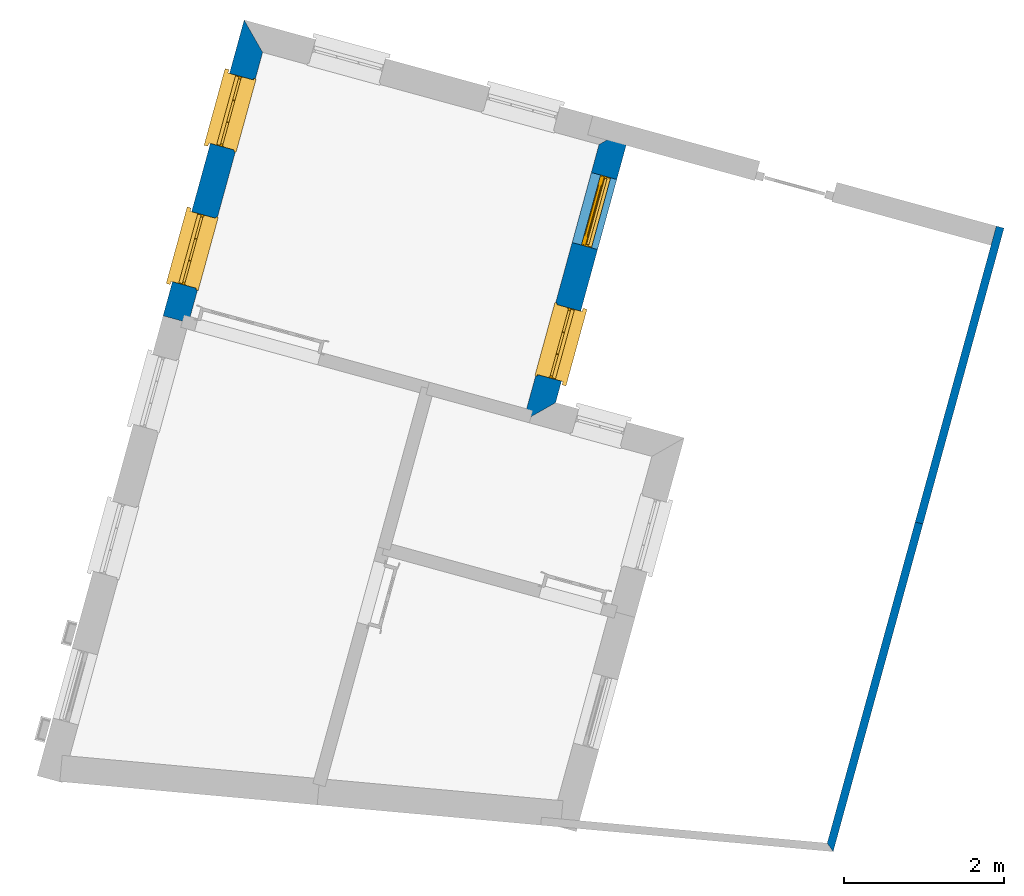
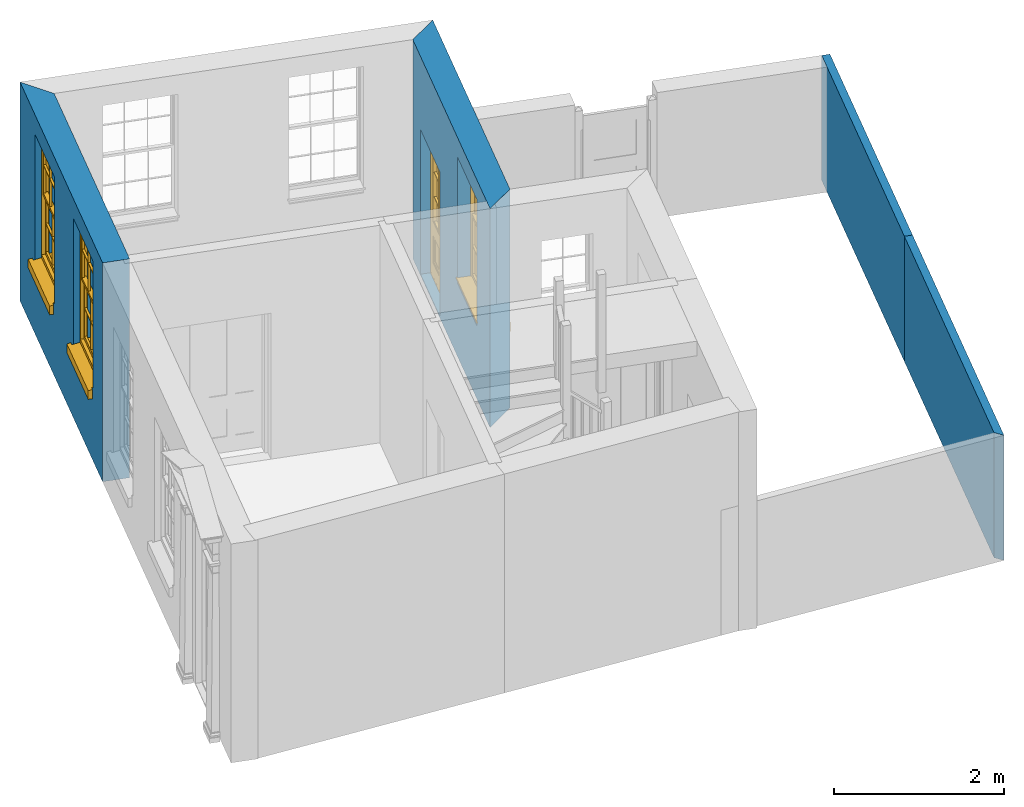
# One storey, part 6 of 8: 4 walls, 3 windows, 1 door, 4 openings.
"""IFC4 building model written with IfcOpenShell, lengths in metres."""

from ifc_helpers import new_model, si_unit, frame, origin, origin_with_axes, place, context, subcontext, project, spatial, polyline, outline, extrude, faceted_brep, source, transform, mapped, material, layer, layer_set, layer_usage, type_object, type_shapes, element, fill, save


model = new_model("IFC4")

# Units and contexts
model_context = context("Model", 3, world=origin_with_axes())
body_context = subcontext(model_context, "Body", "Model", "MODEL_VIEW")
ifc_project = project(units=[si_unit("PLANEANGLEUNIT", "RADIAN"), si_unit("MASSUNIT", "GRAM", prefix="KILO"), si_unit("FORCEUNIT", "NEWTON", prefix="KILO"), si_unit("LENGTHUNIT", "METRE"), si_unit("AREAUNIT", "SQUARE_METRE"), si_unit("VOLUMEUNIT", "CUBIC_METRE")], contexts=[model_context, model_context])

# Sites, building, storey
site_1_placement = place(None, origin_with_axes())
site_1 = spatial("IfcSite", under=ifc_project, at=site_1_placement, Name="Tamar")
site_2_placement = place(site_1_placement, origin_with_axes())
site_2 = spatial("IfcSite", under=site_1, at=site_2_placement, Name="Site plot-28", CompositionType="ELEMENT")
building_placement = place(None, origin_with_axes())
building = spatial("IfcBuilding", under=site_2, at=building_placement, Name="Building plot-28", CompositionType="ELEMENT")
storey_placement = place(None, frame((0.0, 0.0, 24.0), z_axis=(0.0, 0.0, 1.0), x_axis=(1.0, 0.0, 0.0)))
storey = spatial("IfcBuildingStorey", under=building, at=storey_placement, Name="plot-28 0", CompositionType="ELEMENT", Elevation=24.0)

# Wall, openings, door, window
ifc_material_1 = material(Name="Masonry")
ifc_layer_1 = layer(ifc_material_1, 0.33, ventilated=False)
ifc_layer_set_1 = layer_set([ifc_layer_1], Name="exterior_0.08_0.25")
ifc_layer_usage_1 = layer_usage(ifc_layer_set_1, "AXIS2", "POSITIVE", -0.25)
wall_type_1 = type_object("IfcWallType", Name="exterior_0.08_0.25", PredefinedType="SOLIDWALL", material=ifc_layer_set_1)
wall_1_placement = place(storey_placement, frame((264.968572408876, 264.000727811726, 0.0), z_axis=(0.0, 0.0, 1.0), x_axis=(0.264255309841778, 0.964452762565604, 0.0)))
wall_1 = element("IfcWall", 1, at=wall_1_placement, inside=storey, type_object=wall_type_1, material=ifc_layer_usage_1, Name="exterior", context=body_context, shape_type="SweptSolid", body=[
    extrude(outline(polyline([(-0.079999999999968, 0.0799999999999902), (0.250000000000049, -0.249999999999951), (3.84326696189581, -0.24999999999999), (3.51326696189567, 0.0799999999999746), (-0.079999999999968, 0.0799999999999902)])), origin_with_axes(), (0.0, 0.0, 1.0), 3.15),
])
opening_1_placement = place(wall_1_placement, frame((0.529950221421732, 0.0, 1.05)))
opening_1 = element("IfcOpeningElement", 2, at=opening_1_placement, cuts=wall_1, Name="My Opening", ObjectType="Opening", context=body_context, shape_type="SweptSolid", body=[
    extrude(outline(polyline([(0.0, -0.270000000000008), (0.910000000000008, -0.269999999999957), (0.910000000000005, 1.10000000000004), (-3.44169137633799e-15, 1.09999999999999), (0.0, -0.270000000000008)])), origin_with_axes(), (0.0, 0.0, 1.0), 1.82),
])
opening_2_placement = place(wall_1_placement, frame((2.23995022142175, 0.0, 0.0199999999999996)))
opening_2 = element("IfcOpeningElement", 3, at=opening_2_placement, cuts=wall_1, Name="My Opening", ObjectType="Opening", context=body_context, shape_type="SweptSolid", body=[
    extrude(outline(polyline([(0.0, -0.270000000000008), (0.910000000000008, -0.269999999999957), (0.910000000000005, 1.10000000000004), (-3.10862446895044e-15, 1.09999999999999), (0.0, -0.270000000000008)])), origin_with_axes(), (0.0, 0.0, 1.0), 2.08),
])
door_type = type_object("IfcDoorType", Name="door_panelled", OperationType="SINGLE_SWING_LEFT", PredefinedType="NOTDEFINED")
shared_shape_1 = source(origin(), body_context, "Body", "Brep", [
    faceted_brep([(0.545, 0.195, 0.265), (0.745, 0.195, 0.265), (0.745, 0.2, 0.265), (0.545, 0.2, 0.265), (0.745, 0.2, 0.58), (0.545, 0.2, 0.58), (0.545, 0.195, 0.58), (0.515, 0.19, 0.235), (0.775, 0.19, 0.235), (0.745, 0.195, 0.58), (0.515, 0.19, 0.61), (0.515, 0.185, 0.235), (0.775, 0.185, 0.235), (0.775, 0.19, 0.61), (0.515, 0.185, 0.61), (0.785, 0.185, 0.225), (0.505, 0.185, 0.225), (0.775, 0.185, 0.61), (0.505, 0.185, 0.62), (0.785, 0.185, 0.62), (0.505, 0.18, 0.225), (0.785, 0.18, 0.225), (0.505, 0.18, 0.62), (0.785, 0.18, 0.62), (0.883, 0.18, 0.075), (0.898, 0.18, 0.075), (0.405, 0.18, 0.62), (0.405, 0.18, 0.225), (0.027, 0.18, 0.075), (0.785, 0.18, 0.82), (0.125, 0.18, 0.82), (0.405, 0.185, 0.62), (0.405, 0.185, 0.225), (0.898, 0.18, 2.068), (0.027, 0.17, 0.075), (0.883, 0.17, 0.075), (0.125, 0.18, 0.225), (0.012, 0.18, 0.075), (0.785, 0.19, 0.82), (0.125, 0.19, 0.82), (0.125, 0.18, 0.62), (0.125, 0.185, 0.62), (0.395, 0.185, 0.61), (0.395, 0.185, 0.235), (0.125, 0.185, 0.225), (0.785, 0.18, 1.895), (0.027, 0.14, 0.045), (0.883, 0.14, 0.045), (0.558333, 0.19, 0.83), (0.351667, 0.19, 0.83), (0.125, 0.18, 1.895), (0.125, 0.19, 1.895), (0.785, 0.19, 1.895), (0.012, 0.18, 2.068), (0.135, 0.185, 0.61), (0.395, 0.19, 0.61), (0.395, 0.19, 0.235), (0.135, 0.185, 0.235), (0.027, 0.14, 0.027), (0.883, 0.14, 0.027), (0.568333, 0.19, 0.83), (0.558333, 0.22, 0.83), (0.351667, 0.22, 0.83), (0.341667, 0.19, 0.83), (0.135, 0.19, 1.185), (0.135, 0.19, 1.53), (0.775, 0.19, 1.53), (0.775, 0.19, 1.185), (0.135, 0.19, 0.61), (0.365, 0.195, 0.58), (0.365, 0.195, 0.265), (0.135, 0.19, 0.235), (0.568333, 0.19, 1.175), (0.558333, 0.19, 1.175), (0.775, 0.19, 0.83), (0.558333, 0.22, 1.175), (0.785, 0.22, 0.82), (0.125, 0.22, 0.82), (0.351667, 0.22, 1.175), (0.351667, 0.19, 1.175), (0.341667, 0.19, 1.175), (0.135, 0.19, 0.83), (0.135, 0.19, 1.175), (0.135, 0.22, 1.185), (0.135, 0.22, 1.53), (0.135, 0.19, 1.54), (0.351667, 0.19, 1.885), (0.558333, 0.19, 1.885), (0.775, 0.22, 1.53), (0.775, 0.22, 1.185), (0.775, 0.19, 1.175), (0.775, 0.19, 1.54), (0.165, 0.195, 0.58), (0.365, 0.2, 0.58), (0.365, 0.2, 0.265), (0.165, 0.195, 0.265), (0.568333, 0.22, 0.83), (0.568333, 0.22, 1.175), (0.568333, 0.19, 1.185), (0.558333, 0.19, 1.185), (0.775, 0.22, 0.83), (0.785, 0.23, 0.82), (0.125, 0.23, 0.82), (0.341667, 0.22, 0.83), (0.341667, 0.22, 1.175), (0.351667, 0.19, 1.185), (0.341667, 0.19, 1.185), (0.135, 0.22, 0.83), (0.341667, 0.22, 1.185), (0.125, 0.22, 1.895), (0.341667, 0.22, 1.53), (0.341667, 0.19, 1.53), (0.135, 0.19, 1.885), (0.341667, 0.19, 1.54), (0.341667, 0.19, 1.885), (0.558333, 0.22, 1.885), (0.351667, 0.22, 1.885), (0.568333, 0.19, 1.885), (0.785, 0.22, 1.895), (0.568333, 0.22, 1.185), (0.568333, 0.19, 1.53), (0.568333, 0.22, 1.53), (0.568333, 0.19, 1.54), (0.775, 0.19, 1.885), (0.165, 0.2, 0.58), (0.165, 0.2, 0.265), (0.775, 0.22, 1.175), (0.558333, 0.19, 1.53), (0.351667, 0.22, 1.185), (0.558333, 0.22, 1.185), (0.505, 0.23, 0.62), (0.405, 0.23, 0.62), (0.125, 0.23, 1.895), (0.785, 0.23, 1.895), (0.351667, 0.19, 1.53), (0.135, 0.22, 1.175), (0.135, 0.22, 1.54), (0.341667, 0.22, 1.54), (0.135, 0.22, 1.885), (0.351667, 0.19, 1.54), (0.558333, 0.22, 1.54), (0.558333, 0.19, 1.54), (0.351667, 0.22, 1.54), (0.775, 0.22, 1.54), (0.568333, 0.22, 1.54), (0.775, 0.22, 1.885), (0.558333, 0.22, 1.53), (0.405, 0.23, 0.225), (0.505, 0.23, 0.225), (0.125, 0.23, 0.62), (0.785, 0.23, 0.62), (0.012, 0.23, 2.068), (0.898, 0.23, 2.068), (0.351667, 0.22, 1.53), (0.341667, 0.22, 1.885), (0.568333, 0.22, 1.885), (0.405, 0.225, 0.225), (0.405, 0.225, 0.62), (0.505, 0.225, 0.62), (0.505, 0.225, 0.225), (0.898, 0.23, 0.027), (0.012, 0.23, 0.027), (0.125, 0.225, 0.62), (0.785, 0.225, 0.62), (0.395, 0.225, 0.235), (0.395, 0.225, 0.61), (0.125, 0.23, 0.225), (0.125, 0.225, 0.225), (0.515, 0.225, 0.61), (0.515, 0.225, 0.235), (0.785, 0.23, 0.225), (0.785, 0.225, 0.225), (0.135, 0.225, 0.61), (0.775, 0.225, 0.61), (0.135, 0.225, 0.235), (0.395, 0.22, 0.235), (0.395, 0.22, 0.61), (0.515, 0.22, 0.61), (0.515, 0.22, 0.235), (0.775, 0.225, 0.235), (0.135, 0.22, 0.61), (0.775, 0.22, 0.61), (0.135, 0.22, 0.235), (0.365, 0.215, 0.265), (0.365, 0.215, 0.58), (0.545, 0.215, 0.58), (0.545, 0.215, 0.265), (0.775, 0.22, 0.235), (0.165, 0.215, 0.58), (0.745, 0.215, 0.58), (0.165, 0.215, 0.265), (0.365, 0.21, 0.58), (0.365, 0.21, 0.265), (0.545, 0.21, 0.58), (0.545, 0.21, 0.265), (0.745, 0.215, 0.265), (0.165, 0.21, 0.58), (0.745, 0.21, 0.58), (0.165, 0.21, 0.265), (0.745, 0.21, 0.265), (0.885, 0.178, 0.025), (0.025, 0.178, 0.025), (0.025, 0.15, 0.025), (0.885, 0.15, 0.025), (0.9, 0.23, 0.025), (0.01, 0.23, 0.025), (0.9, 0.178, 0.025), (0.91, 0.23, 0.0), (0.0, 0.23, 0.0), (0.01, 0.178, 0.025), (0.9, 0.178, 2.07), (0.9, 0.23, 2.07), (0.885, 0.178, 2.055), (0.91, 0.23, 2.08), (0.01, 0.23, 2.07), (0.0, 0.23, 2.08), (0.01, 0.178, 2.07), (0.025, 0.178, 2.055), (0.0, 0.1, 2.08), (0.91, 0.1, 2.08), (0.01, 0.1, 2.07), (0.9, 0.1, 2.07), (0.01, 0.15, 2.07), (0.9, 0.15, 2.07), (0.0, 0.1, 0.0), (0.91, 0.1, 0.0), (0.01, 0.1, 0.025), (0.9, 0.1, 0.025), (0.01, 0.15, 0.025), (0.025, 0.15, 2.055), (0.9, 0.15, 0.025), (0.885, 0.15, 2.055), (0.898, 0.18, 0.027), (0.012, 0.18, 0.027), (0.883, 0.18, 0.027), (0.027, 0.18, 0.027)], [[[0, 1, 2, 3]], [[2, 4, 5, 3]], [[0, 3, 5, 6]], [[1, 0, 7, 8]], [[9, 4, 2, 1]], [[9, 6, 5, 4]], [[0, 6, 10, 7]], [[8, 7, 11, 12]], [[8, 13, 9, 1]], [[13, 10, 6, 9]], [[7, 10, 14, 11]], [[15, 12, 11, 16]], [[12, 17, 13, 8]], [[17, 14, 10, 13]], [[18, 16, 11, 14]], [[15, 19, 17, 12]], [[15, 16, 20, 21]], [[14, 17, 19, 18]], [[16, 18, 22, 20]], [[21, 23, 19, 15]], [[24, 25, 21, 20]], [[23, 22, 18, 19]], [[20, 22, 26, 27]], [[23, 21, 25]], [[28, 24, 20, 27]], [[22, 23, 29]], [[29, 30, 26, 22]], [[27, 26, 31, 32]], [[23, 25, 33, 29]], [[34, 35, 24, 28]], [[28, 27, 36, 37]], [[38, 39, 30, 29]], [[26, 30, 40]], [[26, 40, 41, 31]], [[42, 43, 32, 31]], [[32, 44, 36, 27]], [[33, 45, 29]], [[46, 47, 35, 34]], [[36, 40, 37]], [[39, 38, 48, 49]], [[50, 30, 39, 51]], [[29, 45, 52, 38]], [[53, 37, 40, 30]], [[44, 41, 40, 36]], [[31, 41, 54, 42]], [[43, 42, 55, 56]], [[57, 44, 32, 43]], [[50, 45, 33, 53]], [[47, 46, 58, 59]], [[60, 48, 38]], [[49, 48, 61, 62]], [[49, 63, 39]], [[50, 53, 30]], [[51, 39, 64, 65]], [[45, 50, 51, 52]], [[66, 67, 38, 52]], [[57, 54, 41, 44]], [[42, 54, 68, 55]], [[56, 55, 69, 70]], [[56, 71, 57, 43]], [[60, 72, 73, 48]], [[60, 38, 74]], [[48, 73, 75, 61]], [[76, 77, 62, 61]], [[62, 78, 79, 49]], [[49, 79, 80, 63]], [[63, 81, 39]], [[82, 64, 39]], [[65, 64, 83, 84]], [[85, 51, 65]], [[52, 51, 86, 87]], [[88, 89, 67, 66]], [[90, 38, 67]], [[91, 66, 52]], [[71, 68, 54, 57]], [[55, 68, 92, 69]], [[69, 93, 94, 70]], [[70, 95, 71, 56]], [[96, 97, 72, 60]], [[73, 72, 98, 99]], [[74, 38, 90]], [[100, 96, 60, 74]], [[75, 73, 79, 78]], [[61, 75, 97, 96]], [[101, 102, 77, 76]], [[77, 103, 62]], [[96, 76, 61]], [[103, 104, 78, 62]], [[80, 79, 105, 106]], [[63, 80, 104, 103]], [[81, 63, 103, 107]], [[81, 82, 39]], [[106, 64, 82, 80]], [[106, 108, 83, 64]], [[84, 83, 77, 109]], [[110, 111, 65, 84]], [[112, 51, 85]], [[113, 85, 65, 111]], [[114, 86, 51]], [[115, 87, 86, 116]], [[117, 52, 87]], [[118, 76, 89, 88]], [[119, 98, 67, 89]], [[120, 121, 88, 66]], [[67, 98, 72, 90]], [[91, 122, 120, 66]], [[91, 52, 123]], [[95, 92, 68, 71]], [[69, 92, 124, 93]], [[94, 93, 124, 125]], [[94, 125, 95, 70]], [[72, 97, 126, 90]], [[127, 99, 98, 120]], [[99, 105, 79, 73]], [[74, 90, 126, 100]], [[96, 100, 76]], [[128, 129, 75, 78]], [[97, 75, 129, 119]], [[130, 131, 102, 101]], [[109, 77, 102, 132]], [[133, 101, 76, 118]], [[77, 107, 103]], [[78, 104, 108, 128]], [[111, 106, 105, 134]], [[104, 80, 82, 135]], [[107, 135, 82, 81]], [[110, 108, 106, 111]], [[104, 135, 83, 108]], [[83, 135, 77]], [[136, 84, 109]], [[110, 84, 136, 137]], [[114, 51, 112]], [[85, 136, 138, 112]], [[113, 137, 136, 85]], [[111, 134, 139, 113]], [[86, 114, 113, 139]], [[140, 141, 87, 115]], [[139, 142, 116, 86]], [[109, 118, 115, 116]], [[117, 123, 52]], [[117, 87, 141, 122]], [[126, 89, 76]], [[143, 118, 88]], [[120, 98, 119, 121]], [[119, 89, 126, 97]], [[144, 143, 88, 121]], [[144, 122, 91, 143]], [[127, 120, 122, 141]], [[143, 91, 123, 145]], [[124, 92, 95, 125]], [[146, 129, 99, 127]], [[99, 129, 128, 105]], [[100, 126, 76]], [[121, 119, 129, 146]], [[147, 131, 130, 148]], [[131, 149, 102]], [[130, 101, 150]], [[102, 151, 132]], [[118, 109, 132, 133]], [[101, 133, 152]], [[107, 77, 135]], [[153, 128, 108, 110]], [[134, 105, 128, 153]], [[109, 138, 136]], [[153, 110, 137, 142]], [[154, 114, 112, 138]], [[137, 113, 114, 154]], [[141, 139, 134, 127]], [[141, 140, 142, 139]], [[144, 140, 115, 155]], [[142, 137, 154, 116]], [[155, 115, 118]], [[116, 154, 109]], [[117, 155, 145, 123]], [[122, 144, 155, 117]], [[143, 145, 118]], [[121, 146, 140, 144]], [[146, 127, 134, 153]], [[156, 157, 131, 147]], [[148, 130, 158, 159]], [[148, 160, 161, 147]], [[157, 162, 149, 131]], [[161, 151, 102, 149]], [[101, 152, 160, 150]], [[163, 158, 130, 150]], [[151, 152, 133, 132]], [[154, 138, 109]], [[142, 140, 146, 153]], [[145, 155, 118]], [[157, 156, 164, 165]], [[147, 166, 167, 156]], [[168, 169, 159, 158]], [[170, 148, 159, 171]], [[148, 170, 160]], [[166, 147, 161]], [[172, 162, 157, 165]], [[166, 149, 162, 167]], [[166, 161, 149]], [[150, 160, 170]], [[163, 173, 168, 158]], [[171, 163, 150, 170]], [[174, 164, 156, 167]], [[175, 176, 165, 164]], [[169, 168, 177, 178]], [[171, 159, 169, 179]], [[167, 162, 172, 174]], [[176, 180, 172, 165]], [[179, 173, 163, 171]], [[181, 177, 168, 173]], [[164, 174, 182, 175]], [[183, 184, 176, 175]], [[178, 177, 185, 186]], [[179, 169, 178, 187]], [[174, 172, 180, 182]], [[184, 188, 180, 176]], [[187, 181, 173, 179]], [[189, 185, 177, 181]], [[175, 182, 190, 183]], [[191, 184, 183, 192]], [[185, 193, 194, 186]], [[187, 178, 186, 195]], [[182, 180, 188, 190]], [[191, 196, 188, 184]], [[195, 189, 181, 187]], [[197, 193, 185, 189]], [[183, 190, 198, 192]], [[198, 196, 191, 192]], [[194, 193, 197, 199]], [[195, 186, 194, 199]], [[188, 196, 198, 190]], [[197, 189, 195, 199]], [[200, 201, 202, 203]], [[201, 200, 204, 205]], [[206, 204, 200]], [[204, 207, 208, 205]], [[209, 201, 205]], [[210, 211, 204, 206]], [[206, 200, 212, 210]], [[211, 213, 207, 204]], [[214, 205, 208, 215]], [[216, 217, 201, 209]], [[205, 214, 216, 209]], [[216, 214, 211, 210]], [[210, 212, 217, 216]], [[214, 215, 213, 211]], [[218, 219, 213, 215]], [[219, 218, 220, 221]], [[221, 220, 222, 223]], [[215, 208, 224, 218]], [[225, 224, 208, 207]], [[224, 226, 220, 218]], [[224, 225, 227, 226]], [[219, 225, 207, 213]], [[228, 222, 220, 226]], [[219, 221, 227, 225]], [[226, 227, 203, 202]], [[202, 229, 222, 228]], [[228, 226, 202]], [[227, 221, 223, 230]], [[230, 203, 227]], [[217, 229, 202, 201]], [[231, 223, 222, 229]], [[230, 223, 231, 203]], [[231, 229, 217, 212]], [[212, 200, 203, 231]], [[33, 152, 151, 53]], [[25, 160, 152, 33]], [[161, 37, 53, 151]], [[232, 160, 25]], [[161, 233, 37]], [[160, 232, 234]], [[24, 234, 232, 25]], [[233, 161, 235]], [[37, 233, 235, 28]], [[161, 160, 234, 235]], [[35, 47, 234, 24]], [[28, 235, 46, 34]], [[58, 235, 234, 59]], [[59, 234, 47]], [[58, 46, 235]]]),
])
type_shapes(door_type, [shared_shape_1])
door_placement = place(storey_placement, frame((265.820893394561, 266.089705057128, 0.0199999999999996), z_axis=(0.0, 0.0, 1.0), x_axis=(0.240472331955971, 0.877652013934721, 0.0)))
door = element("IfcDoor", 4, at=door_placement, inside=storey, type_object=door_type, Name="kitchen outside door", OverallHeight=2.08, OverallWidth=0.91, context=body_context, shape_type="MappedRepresentation", body=[
    mapped(shared_shape_1, transform((0.0, 0.0, 0.0), scale=1.0)),
])
fill(opening_2, door)
window_type = type_object("IfcWindowType", Name="sash_big", PartitioningType="DOUBLE_PANEL_HORIZONTAL", PredefinedType="NOTDEFINED")
shared_shape_2 = source(origin(), body_context, "Body", "Brep", [
    faceted_brep([(0.033125, 0.145, 0.975209), (0.01, 0.145, 0.975209), (0.033125, 0.145, 1.376042), (0.876875, 0.145, 0.975209), (0.876875, 0.145, 1.376042), (0.9, 0.145, 0.975209), (0.876875, 0.145, 1.386042), (0.876875, 0.145, 1.786875), (0.9, 0.145, 1.81), (0.033125, 0.145, 1.786875), (0.033125, 0.145, 1.386042), (0.01, 0.145, 1.81), (0.876875, 0.115, 1.376042), (0.876875, 0.115, 0.975209), (0.9, 0.115, 0.937083), (0.033125, 0.115, 1.786875), (0.01, 0.115, 1.81), (0.033125, 0.115, 1.386042), (0.01, 0.115, 0.937083), (0.033125, 0.115, 0.975209), (0.033125, 0.115, 1.376042), (0.876875, 0.115, 1.786875), (0.876875, 0.115, 1.386042), (0.9, 0.115, 1.81), (0.033125, 0.145, 0.937083), (0.01, 0.145, 0.937083), (0.033125, 0.145, 0.53625), (0.876875, 0.145, 0.937083), (0.876875, 0.145, 0.53625), (0.9, 0.145, 0.937083), (0.876875, 0.145, 0.52625), (0.876875, 0.145, 0.125417), (0.9, 0.145, 0.077167), (0.033125, 0.145, 0.125417), (0.033125, 0.145, 0.52625), (0.01, 0.145, 0.077167), (-0.0425, 0.0, 0.01), (-0.0425, -0.05, 0.001667), (0.0, 0.0, 0.01), (0.9525, 0.0, 0.01), (0.91, 0.0, 0.01), (0.9525, -0.05, 0.001667), (-0.02, 0.33, 0.077167), (0.0, 0.33, 0.077167), (-0.02, 0.36, 0.077167), (0.0, 0.19, 0.077167), (0.01, 0.19, 0.077167), (0.91, 0.19, 0.077167), (0.91, 0.33, 0.077167), (0.9, 0.19, 0.077167), (0.93, 0.33, 0.077167), (0.93, 0.36, 0.077167), (0.01, 0.175, 0.975209), (0.9, 0.175, 0.975209), (0.876875, 0.175, 0.125417), (0.876875, 0.175, 0.52625), (0.9, 0.175, 0.077167), (0.876875, 0.175, 0.53625), (0.876875, 0.175, 0.937083), (0.033125, 0.175, 0.125417), (0.01, 0.175, 0.077167), (0.033125, 0.175, 0.52625), (0.033125, 0.175, 0.937083), (0.033125, 0.175, 0.53625), (-0.02, 0.33, 0.052167), (-0.02, 0.36, 0.052167), (0.93, 0.36, 0.052167), (0.93, 0.33, 0.052167), (0.91, 0.33, 0.052167), (0.0, 0.33, 0.052167), (0.91, 0.1, 0.026667), (0.0, 0.1, 0.026667), (-0.0425, -0.05, -0.123333), (0.9525, -0.05, -0.123333), (-0.0425, 0.0, -0.123333), (0.9525, 0.0, -0.123333), (0.01, 0.19, 1.81), (0.9, 0.19, 1.81), (0.0, 0.19, 1.82), (0.91, 0.19, 1.82), (0.01, 0.1, 0.077167), (0.9, 0.1, 0.077167), (0.592292, 0.145, 0.125417), (0.592292, 0.175, 0.125417), (0.317708, 0.175, 0.125417), (0.317708, 0.145, 0.125417), (0.592292, 0.145, 0.53625), (0.317708, 0.145, 0.53625), (0.317708, 0.145, 0.52625), (0.592292, 0.145, 0.52625), (0.592292, 0.175, 0.53625), (0.317708, 0.175, 0.53625), (0.592292, 0.115, 1.386042), (0.592292, 0.145, 1.386042), (0.317708, 0.145, 1.386042), (0.317708, 0.115, 1.386042), (0.317708, 0.115, 1.376042), (0.592292, 0.115, 1.376042), (0.317708, 0.145, 1.376042), (0.592292, 0.145, 1.376042), (0.602292, 0.115, 1.376042), (0.592292, 0.115, 0.975209), (0.602292, 0.115, 0.975209), (0.602292, 0.145, 0.975209), (0.592292, 0.145, 0.975209), (0.602292, 0.145, 1.376042), (0.602292, 0.175, 0.53625), (0.602292, 0.145, 0.53625), (0.317708, 0.175, 0.52625), (0.307708, 0.175, 0.125417), (0.307708, 0.175, 0.52625), (0.602292, 0.175, 0.52625), (0.602292, 0.175, 0.125417), (0.592292, 0.175, 0.52625), (0.307708, 0.175, 0.53625), (0.317708, 0.175, 0.937083), (0.307708, 0.175, 0.937083), (0.602292, 0.175, 0.937083), (0.592292, 0.175, 0.937083), (0.307708, 0.145, 0.52625), (0.307708, 0.145, 0.125417), (0.307708, 0.145, 0.53625), (0.307708, 0.145, 0.937083), (0.592292, 0.145, 0.937083), (0.317708, 0.145, 0.937083), (0.602292, 0.145, 0.937083), (0.602292, 0.145, 0.52625), (0.602292, 0.145, 0.125417), (0.307708, 0.115, 1.386042), (0.307708, 0.115, 1.376042), (0.307708, 0.115, 0.975209), (0.317708, 0.115, 0.975209), (0.317708, 0.115, 1.786875), (0.307708, 0.115, 1.786875), (0.602292, 0.115, 1.786875), (0.592292, 0.115, 1.786875), (0.602292, 0.115, 1.386042), (0.602292, 0.145, 1.386042), (0.307708, 0.145, 1.386042), (0.307708, 0.145, 1.786875), (0.317708, 0.145, 1.786875), (0.592292, 0.145, 1.786875), (0.602292, 0.145, 1.786875), (0.307708, 0.145, 1.376042), (0.317708, 0.145, 0.975209), (0.307708, 0.145, 0.975209), (0.91, 0.1, 1.82), (0.9, 0.1, 1.81), (0.01, 0.1, 1.81), (0.0, 0.1, 1.82), (0.91, 0.0, 0.0), (0.0, 0.0, 0.0), (0.91, 0.33, 0.0), (0.0, 0.33, 0.0)], [[[0, 1, 2]], [[3, 4, 5]], [[6, 7, 8]], [[9, 10, 11]], [[12, 13, 14]], [[15, 16, 17]], [[18, 19, 20]], [[21, 22, 23]], [[24, 25, 26]], [[27, 28, 29]], [[30, 31, 32]], [[33, 34, 35]], [[14, 27, 29]], [[25, 24, 18]], [[36, 37, 38]], [[39, 40, 41]], [[42, 43, 44]], [[45, 46, 43]], [[47, 48, 49]], [[50, 51, 48]], [[1, 0, 52]], [[5, 53, 3]], [[54, 55, 56]], [[57, 58, 53]], [[59, 60, 61]], [[62, 63, 52]], [[48, 43, 46, 49]], [[51, 44, 43, 48]], [[64, 42, 44, 65]], [[65, 44, 51, 66]], [[66, 51, 50, 67]], [[65, 66, 68, 69]], [[60, 56, 49, 46]], [[70, 71, 38, 40]], [[37, 41, 40, 38]], [[37, 72, 73, 41]], [[74, 75, 73, 72]], [[8, 11, 76, 77]], [[76, 78, 79, 77]], [[32, 35, 80, 81]], [[81, 80, 71, 70]], [[82, 83, 84, 85]], [[86, 87, 88, 89]], [[86, 90, 91, 87]], [[92, 93, 94, 95]], [[92, 95, 96, 97]], [[96, 98, 99, 97]], [[100, 97, 101, 102]], [[103, 104, 99, 105]], [[97, 99, 104, 101]], [[102, 103, 105, 100]], [[28, 57, 106, 107]], [[108, 84, 109, 110]], [[111, 112, 83, 113]], [[114, 110, 61, 63]], [[90, 113, 108, 91]], [[115, 91, 114, 116]], [[117, 106, 90, 118]], [[111, 106, 57, 55]], [[119, 110, 109, 120]], [[34, 61, 110, 119]], [[89, 113, 83, 82]], [[88, 108, 113, 89]], [[85, 84, 108, 88]], [[121, 114, 63, 26]], [[122, 116, 114, 121]], [[123, 118, 90, 86]], [[87, 91, 115, 124]], [[107, 106, 117, 125]], [[126, 111, 55, 30]], [[127, 112, 111, 126]], [[126, 30, 28, 107]], [[88, 119, 120, 85]], [[126, 89, 82, 127]], [[125, 123, 86, 107]], [[121, 26, 34, 119]], [[124, 122, 121, 87]], [[128, 17, 20, 129]], [[96, 129, 130, 131]], [[132, 133, 128, 95]], [[134, 135, 92, 136]], [[100, 12, 22, 136]], [[137, 6, 4, 105]], [[94, 138, 139, 140]], [[137, 93, 141, 142]], [[99, 98, 94, 93]], [[143, 2, 10, 138]], [[144, 145, 143, 98]], [[129, 143, 145, 130]], [[20, 2, 143, 129]], [[131, 144, 98, 96]], [[128, 138, 10, 17]], [[133, 139, 138, 128]], [[135, 141, 93, 92]], [[95, 94, 140, 132]], [[22, 6, 137, 136]], [[136, 137, 142, 134]], [[100, 105, 4, 12]], [[107, 86, 89, 126]], [[106, 111, 113, 90]], [[91, 108, 110, 114]], [[87, 121, 119, 88]], [[97, 100, 136, 92]], [[129, 96, 95, 128]], [[98, 143, 138, 94]], [[105, 99, 93, 137]], [[131, 101, 104, 144]], [[124, 115, 118, 123]], [[132, 140, 141, 135]], [[120, 109, 59, 33]], [[15, 9, 139, 133]], [[134, 142, 7, 21]], [[31, 54, 112, 127]], [[36, 74, 72, 37]], [[39, 41, 73, 75]], [[18, 14, 101, 131]], [[23, 16, 132, 135]], [[83, 56, 60, 84]], [[52, 53, 118, 115]], [[53, 52, 144, 104]], [[11, 8, 141, 140]], [[14, 18, 124, 123]], [[2, 1, 11, 10]], [[8, 5, 4, 6]], [[57, 53, 56, 55]], [[60, 52, 63, 61]], [[26, 25, 35, 34]], [[32, 29, 28, 30]], [[14, 23, 22, 12]], [[18, 20, 17, 16]], [[19, 0, 2, 20]], [[17, 10, 9, 15]], [[12, 4, 3, 13]], [[21, 7, 6, 22]], [[27, 58, 57, 28]], [[30, 55, 54, 31]], [[33, 59, 61, 34]], [[26, 63, 62, 24]], [[5, 8, 77, 53]], [[76, 11, 1, 52]], [[46, 45, 78, 76]], [[49, 77, 79, 47]], [[70, 146, 147, 81]], [[71, 80, 148, 149]], [[19, 130, 145, 0]], [[102, 13, 3, 103]], [[116, 122, 24, 62]], [[29, 32, 81, 14]], [[80, 35, 25, 18]], [[60, 46, 76, 52]], [[77, 49, 56, 53]], [[23, 14, 81, 147]], [[16, 148, 80, 18]], [[35, 85, 120]], [[120, 33, 35]], [[127, 82, 32]], [[32, 31, 127]], [[32, 82, 85, 35]], [[102, 101, 14]], [[14, 13, 102]], [[18, 131, 130]], [[130, 19, 18]], [[134, 21, 23]], [[23, 135, 134]], [[16, 15, 133]], [[133, 132, 16]], [[11, 140, 139]], [[139, 9, 11]], [[142, 141, 8]], [[8, 7, 142]], [[23, 147, 148, 16]], [[146, 149, 148, 147]], [[52, 115, 116]], [[116, 62, 52]], [[118, 53, 117]], [[58, 117, 53]], [[27, 125, 117, 58]], [[56, 83, 112]], [[112, 54, 56]], [[109, 84, 60]], [[60, 59, 109]], [[125, 27, 14]], [[14, 123, 125]], [[122, 124, 18]], [[18, 24, 122]], [[145, 144, 52]], [[52, 0, 145]], [[103, 3, 53]], [[53, 104, 103]], [[79, 78, 149, 146]], [[78, 45, 71, 149]], [[146, 70, 47, 79]], [[150, 75, 74, 151]], [[68, 66, 67]], [[48, 68, 67, 50]], [[69, 64, 65]], [[42, 64, 69, 43]], [[69, 68, 152, 153]], [[70, 68, 48, 47]], [[150, 152, 68, 70]], [[43, 69, 71, 45]], [[69, 153, 151, 71]], [[152, 150, 151, 153]], [[38, 151, 74, 36]], [[71, 151, 38]], [[39, 75, 150, 40]], [[40, 150, 70]]]),
])
type_shapes(window_type, [shared_shape_2])
window_1_placement = place(storey_placement, frame((265.369016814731, 264.440490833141, 1.05), z_axis=(0.0, 0.0, 1.0), x_axis=(0.240472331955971, 0.877652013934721, 0.0)))
window_1 = element("IfcWindow", 5, at=window_1_placement, inside=storey, type_object=window_type, Name="kitchen outside window", OverallHeight=1.82, OverallWidth=0.91, context=body_context, shape_type="MappedRepresentation", body=[
    mapped(shared_shape_2, transform((0.0, 0.0, 0.0), scale=1.0)),
])
fill(opening_1, window_1)

# Wall, openings, windows
wall_2_placement = place(storey_placement, frame((261.549386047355, 268.663273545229, 0.0), z_axis=(0.0, 0.0, 1.0), x_axis=(-0.264255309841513, -0.964452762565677, 0.0)))
wall_2 = element("IfcWall", 6, at=wall_2_placement, inside=storey, type_object=wall_type_1, material=ifc_layer_usage_1, Name="exterior", context=body_context, shape_type="SweptSolid", body=[
    extrude(outline(polyline([(0.0799999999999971, 0.0800000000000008), (-0.250000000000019, -0.249999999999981), (3.59326696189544, -0.250000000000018), (3.59326696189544, 0.080000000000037), (0.0799999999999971, 0.0800000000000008)])), origin_with_axes(), (0.0, 0.0, 1.0), 3.15),
])
opening_3_placement = place(wall_2_placement, frame((0.443316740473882, 0.0, 1.05)))
opening_3 = element("IfcOpeningElement", 7, at=opening_3_placement, cuts=wall_2, Name="My Opening", ObjectType="Opening", context=body_context, shape_type="SweptSolid", body=[
    extrude(outline(polyline([(0.0, -0.269999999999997), (0.910000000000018, -0.270000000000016), (0.91000000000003, 1.10000000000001), (1.28785870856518e-14, 1.10000000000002), (0.0, -0.269999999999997)])), origin_with_axes(), (0.0, 0.0, 1.0), 1.82),
])
opening_4_placement = place(wall_2_placement, frame((2.23995022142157, 0.0, 1.05)))
opening_4 = element("IfcOpeningElement", 8, at=opening_4_placement, cuts=wall_2, Name="My Opening", ObjectType="Opening", context=body_context, shape_type="SweptSolid", body=[
    extrude(outline(polyline([(0.0, -0.270000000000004), (0.910000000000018, -0.270000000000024), (0.91000000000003, 1.1), (1.28785870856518e-14, 1.10000000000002), (0.0, -0.270000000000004)])), origin_with_axes(), (0.0, 0.0, 1.0), 1.82),
])
window_2_placement = place(storey_placement, frame((261.17183499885, 268.307064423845, 1.05), z_axis=(0.0, 0.0, 1.0), x_axis=(-0.2404723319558, -0.877652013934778, 0.0)))
window_2 = element("IfcWindow", 9, at=window_2_placement, inside=storey, type_object=window_type, Name="kitchen street window", OverallHeight=1.82, OverallWidth=0.91, context=body_context, shape_type="MappedRepresentation", body=[
    mapped(shared_shape_2, transform((0.0, 0.0, 0.0), scale=1.0)),
])
fill(opening_3, window_2)
window_3_placement = place(storey_placement, frame((260.697065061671, 266.574296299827, 1.05), z_axis=(0.0, 0.0, 1.0), x_axis=(-0.2404723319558, -0.877652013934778, 0.0)))
window_3 = element("IfcWindow", 10, at=window_3_placement, inside=storey, type_object=window_type, Name="kitchen street window", OverallHeight=1.82, OverallWidth=0.91, context=body_context, shape_type="MappedRepresentation", body=[
    mapped(shared_shape_2, transform((0.0, 0.0, 0.0), scale=1.0)),
])
fill(opening_4, window_3)

# Walls
ifc_material_2 = material(Name="Masonry")
ifc_layer_2 = layer(ifc_material_2, 0.1, ventilated=False)
ifc_layer_set_2 = layer_set([ifc_layer_2], Name="fence_-0.15_0.25")
ifc_layer_usage_2 = layer_usage(ifc_layer_set_2, "AXIS2", "POSITIVE", -0.25)
wall_type_2 = type_object("IfcWallType", Name="fence_-0.15_0.25", PredefinedType="SOLIDWALL", material=ifc_layer_set_2)
wall_3_placement = place(storey_placement, frame((268.567296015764, 258.819316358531, 0.0), z_axis=(0.0, 0.0, 1.0), x_axis=(0.264255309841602, 0.964452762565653, 0.0)))
element("IfcWall", 11, at=wall_3_placement, inside=storey, type_object=wall_type_2, material=ifc_layer_usage_2, Name="fence", context=body_context, shape_type="SweptSolid", body=[
    extrude(outline(polyline([(-0.1255424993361, -0.149999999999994), (-0.209237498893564, -0.249999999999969), (4.04624476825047, -0.24999999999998), (4.04624476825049, -0.15000000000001), (-0.1255424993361, -0.149999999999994)])), origin_with_axes(), (0.0, 0.0, 1.0), 1.8),
])
wall_4_placement = place(storey_placement, frame((269.636537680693, 262.721728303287, 0.0), z_axis=(0.0, 0.0, 1.0), x_axis=(0.264255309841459, 0.964452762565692, 0.0)))
element("IfcWall", 12, at=wall_4_placement, inside=storey, type_object=wall_type_2, material=ifc_layer_usage_2, Name="fence", context=body_context, shape_type="SweptSolid", body=[
    extrude(outline(polyline([(-3.48629203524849e-14, -0.15000000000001), (-6.81523856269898e-14, -0.24999999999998), (3.84326696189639, -0.250000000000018), (3.84326696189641, -0.149999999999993), (-3.48629203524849e-14, -0.15000000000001)])), origin_with_axes(), (0.0, 0.0, 1.0), 1.8),
])

save(model, "model.ifc")
